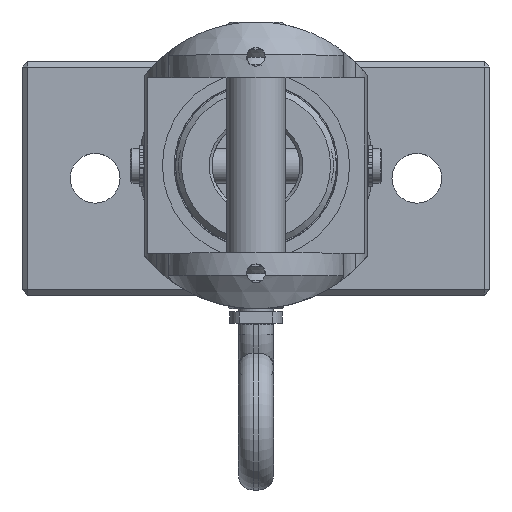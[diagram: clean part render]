
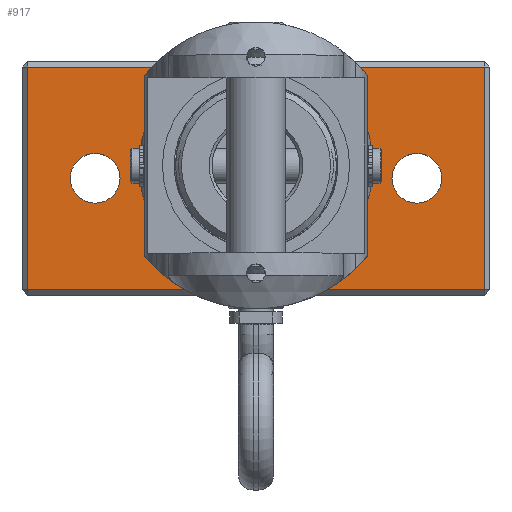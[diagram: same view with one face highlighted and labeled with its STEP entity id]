
A CAD part, top view. The second image highlights one B-rep face of the part: STEP entity #917.
In plain terms, the highlighted planar face has unit normal (0, 0, 1).
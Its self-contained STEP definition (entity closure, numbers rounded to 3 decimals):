
#917 = ADVANCED_FACE( '', ( #1726, #1727, #1728, #1729 ), #1730, .T. );
#1726 = FACE_OUTER_BOUND( '', #2687, .T. );
#1727 = FACE_BOUND( '', #2688, .T. );
#1728 = FACE_BOUND( '', #2689, .T. );
#1729 = FACE_BOUND( '', #2690, .T. );
#1730 = PLANE( '', #2691 );
#2687 = EDGE_LOOP( '', ( #4146, #4147, #4148, #4149 ) );
#2688 = EDGE_LOOP( '', ( #4150 ) );
#2689 = EDGE_LOOP( '', ( #4151 ) );
#2690 = EDGE_LOOP( '', ( #4152 ) );
#2691 = AXIS2_PLACEMENT_3D( '', #4153, #4154, #4155 );
#4146 = ORIENTED_EDGE( '', *, *, #4732, .T. );
#4147 = ORIENTED_EDGE( '', *, *, #5088, .T. );
#4148 = ORIENTED_EDGE( '', *, *, #4887, .T. );
#4149 = ORIENTED_EDGE( '', *, *, #5115, .T. );
#4150 = ORIENTED_EDGE( '', *, *, #5134, .F. );
#4151 = ORIENTED_EDGE( '', *, *, #5067, .F. );
#4152 = ORIENTED_EDGE( '', *, *, #5038, .F. );
#4153 = CARTESIAN_POINT( '', ( -40., -20., 11. ) );
#4154 = DIRECTION( '', ( 0., 0., 1. ) );
#4155 = DIRECTION( '', ( 1., 0., 0. ) );
#4732 = EDGE_CURVE( '', #5807, #5811, #5813, .T. );
#4887 = EDGE_CURVE( '', #5751, #6061, #6063, .T. );
#5038 = EDGE_CURVE( '', #6277, #6277, #6278, .T. );
#5067 = EDGE_CURVE( '', #6320, #6320, #6321, .T. );
#5088 = EDGE_CURVE( '', #5811, #5751, #6345, .T. );
#5115 = EDGE_CURVE( '', #6061, #5807, #6378, .T. );
#5134 = EDGE_CURVE( '', #6398, #6398, #6399, .T. );
#5751 = VERTEX_POINT( '', #6927 );
#5807 = VERTEX_POINT( '', #7132 );
#5811 = VERTEX_POINT( '', #7138 );
#5813 = LINE( '', #7141, #7142 );
#6061 = VERTEX_POINT( '', #8653 );
#6063 = LINE( '', #8656, #8657 );
#6277 = VERTEX_POINT( '', #9890 );
#6278 = CIRCLE( '', #9891, 9. );
#6320 = VERTEX_POINT( '', #10096 );
#6321 = CIRCLE( '', #10097, 4.25 );
#6345 = LINE( '', #10264, #10265 );
#6378 = LINE( '', #10360, #10361 );
#6398 = VERTEX_POINT( '', #10385 );
#6399 = CIRCLE( '', #10386, 4.25 );
#6927 = CARTESIAN_POINT( '', ( 39., 19., 11. ) );
#7132 = CARTESIAN_POINT( '', ( -39., -19., 11. ) );
#7138 = CARTESIAN_POINT( '', ( 39., -19., 11. ) );
#7141 = CARTESIAN_POINT( '', ( 40., -19., 11. ) );
#7142 = VECTOR( '', #10802, 1000. );
#8653 = CARTESIAN_POINT( '', ( -39., 19., 11. ) );
#8656 = CARTESIAN_POINT( '', ( -40., 19., 11. ) );
#8657 = VECTOR( '', #10967, 1000. );
#9890 = CARTESIAN_POINT( '', ( 9., 0., 11. ) );
#9891 = AXIS2_PLACEMENT_3D( '', #11114, #11115, #11116 );
#10096 = CARTESIAN_POINT( '', ( -23.25, 0., 11. ) );
#10097 = AXIS2_PLACEMENT_3D( '', #11148, #11149, #11150 );
#10264 = CARTESIAN_POINT( '', ( 39., 20., 11. ) );
#10265 = VECTOR( '', #11163, 1000. );
#10360 = CARTESIAN_POINT( '', ( -39., -20., 11. ) );
#10361 = VECTOR( '', #11183, 1000. );
#10385 = CARTESIAN_POINT( '', ( 31.75, 0., 11. ) );
#10386 = AXIS2_PLACEMENT_3D( '', #11194, #11195, #11196 );
#10802 = DIRECTION( '', ( 1., 0., 0. ) );
#10967 = DIRECTION( '', ( -1., 0., 0. ) );
#11114 = CARTESIAN_POINT( '', ( 0., 0., 11. ) );
#11115 = DIRECTION( '', ( 0., 0., 1. ) );
#11116 = DIRECTION( '', ( 1., 0., 0. ) );
#11148 = CARTESIAN_POINT( '', ( -27.5, 0., 11. ) );
#11149 = DIRECTION( '', ( 0., 0., 1. ) );
#11150 = DIRECTION( '', ( 1., 0., 0. ) );
#11163 = DIRECTION( '', ( 0., 1., 0. ) );
#11183 = DIRECTION( '', ( 0., -1., 0. ) );
#11194 = CARTESIAN_POINT( '', ( 27.5, 0., 11. ) );
#11195 = DIRECTION( '', ( 0., 0., 1. ) );
#11196 = DIRECTION( '', ( 1., 0., 0. ) );
